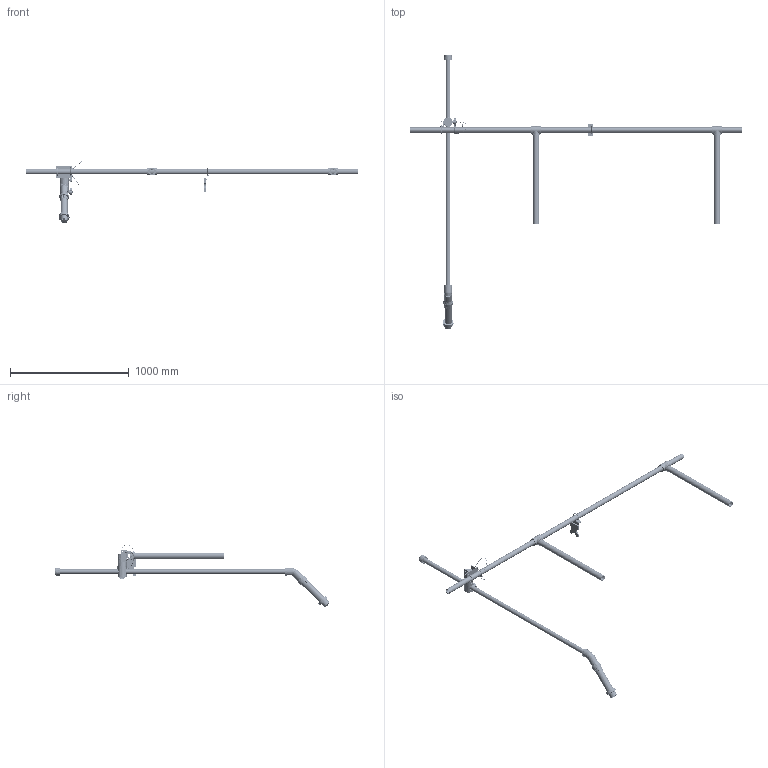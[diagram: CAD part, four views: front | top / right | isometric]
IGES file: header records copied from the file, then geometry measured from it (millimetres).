
Start section: SolidWorks IGES file using analytic representation for surfaces
Global section: file name: D:\HACH-LANGE-Berlin-Tresor01\Projects\LXG416-LDO\6184900.TD.0000__NISE_001.IGS; native system: SolidWorks 2014; preprocessor: SolidWorks 2014; author: bworgt; date: 140919.074557; units: inch
Bounding box: 2794 x 2312.33 x 525.97 mm (x, y, z)
Surface area: 2112515 mm2 (no closed solid volume)
Topology: 0 solids, 0 shells, 3207 faces, 56111 edges, 55993 vertices
Faces by surface type: revolution 1748, bspline 1459
